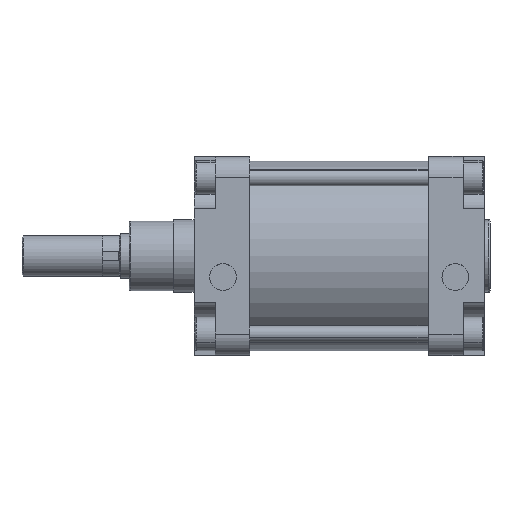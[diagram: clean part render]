
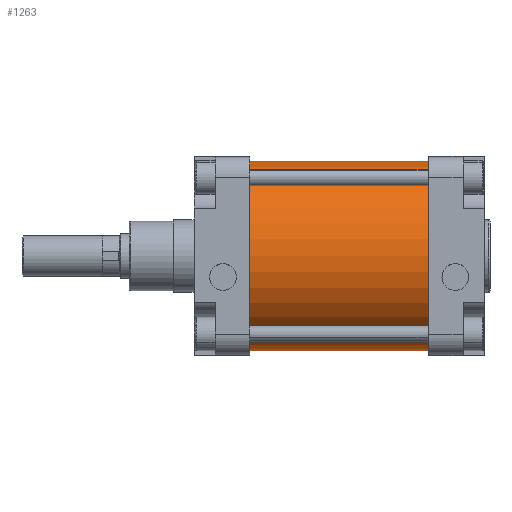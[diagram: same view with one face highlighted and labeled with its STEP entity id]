
A CAD part, top view. The second image highlights one B-rep face of the part: STEP entity #1263.
In plain terms, the highlighted cylindrical face has radius 85 mm (diameter 170 mm), a partial arc.
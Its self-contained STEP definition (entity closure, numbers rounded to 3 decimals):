
#853=CARTESIAN_POINT('Axis2P3D Location',(0.,0.,0.)) ;
#857=CARTESIAN_POINT('Vertex',(0.,85.,0.)) ;
#859=CARTESIAN_POINT('Vertex',(0.,-85.,0.)) ;
#1233=CARTESIAN_POINT('Axis2P3D Location',(80.,0.,0.)) ;
#1238=CARTESIAN_POINT('Line Origine',(80.,85.,0.)) ;
#1242=CARTESIAN_POINT('Vertex',(160.,85.,0.)) ;
#1245=CARTESIAN_POINT('Line Origine',(80.,-85.,0.)) ;
#1249=CARTESIAN_POINT('Vertex',(160.,-85.,0.)) ;
#1252=CARTESIAN_POINT('Axis2P3D Location',(160.,0.,0.)) ;
#854=DIRECTION('Axis2P3D Direction',(1.,0.,0.)) ;
#1234=DIRECTION('Axis2P3D Direction',(1.,0.,0.)) ;
#1235=DIRECTION('Axis2P3D XDirection',(0.,1.,0.)) ;
#1239=DIRECTION('Vector Direction',(1.,0.,0.)) ;
#1246=DIRECTION('Vector Direction',(1.,0.,0.)) ;
#1253=DIRECTION('Axis2P3D Direction',(1.,0.,0.)) ;
#855=AXIS2_PLACEMENT_3D('Circle Axis2P3D',#853,#854,$) ;
#1236=AXIS2_PLACEMENT_3D('Cylinder Axis2P3D',#1233,#1234,#1235) ;
#1254=AXIS2_PLACEMENT_3D('Circle Axis2P3D',#1252,#1253,$) ;
#1258=ORIENTED_EDGE('',*,*,#1244,.F.) ;
#1259=ORIENTED_EDGE('',*,*,#861,.T.) ;
#1260=ORIENTED_EDGE('',*,*,#1251,.T.) ;
#1261=ORIENTED_EDGE('',*,*,#1256,.F.) ;
#1240=VECTOR('Line Direction',#1239,1.) ;
#1247=VECTOR('Line Direction',#1246,1.) ;
#1263=ADVANCED_FACE('PartBody',(#1262),#1237,.T.) ;
#856=CIRCLE('generated circle',#855,85.) ;
#1255=CIRCLE('generated circle',#1254,85.) ;
#1237=CYLINDRICAL_SURFACE('generated cylinder',#1236,85.) ;
#861=EDGE_CURVE('',#858,#860,#856,.T.) ;
#1244=EDGE_CURVE('',#858,#1243,#1241,.T.) ;
#1251=EDGE_CURVE('',#860,#1250,#1248,.T.) ;
#1256=EDGE_CURVE('',#1243,#1250,#1255,.T.) ;
#1257=EDGE_LOOP('',(#1258,#1259,#1260,#1261)) ;
#1262=FACE_OUTER_BOUND('',#1257,.T.) ;
#1241=LINE('Line',#1238,#1240) ;
#1248=LINE('Line',#1245,#1247) ;
#858=VERTEX_POINT('',#857) ;
#860=VERTEX_POINT('',#859) ;
#1243=VERTEX_POINT('',#1242) ;
#1250=VERTEX_POINT('',#1249) ;
